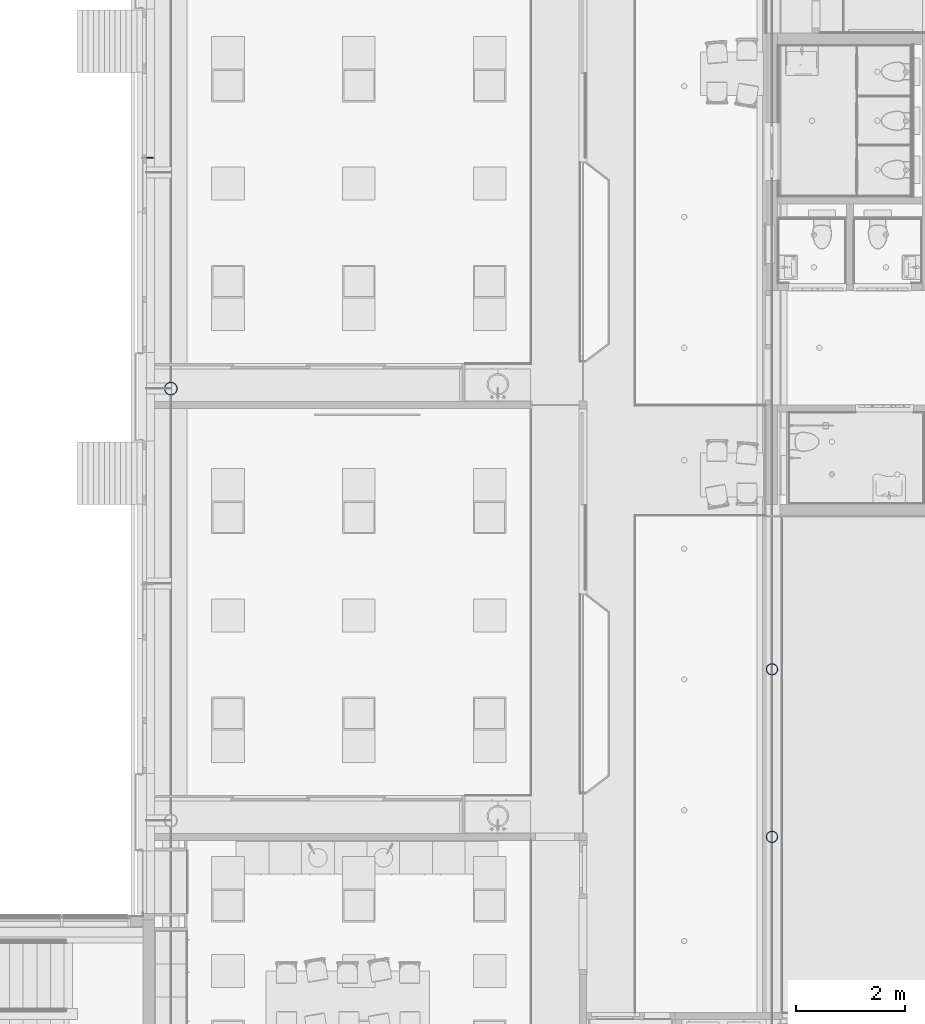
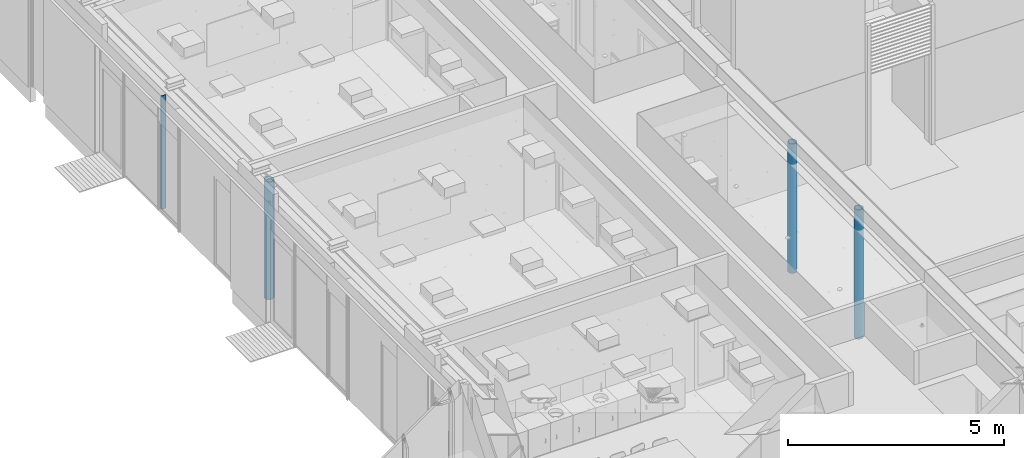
# One storey, part 15 of 347: 4 columns.
"""IFC2X3 building model written with IfcOpenShell, lengths in millimetres."""

import ifcopenshell
import ifcopenshell.guid

model = None  # the IFC model being written
_history = None  # IfcOwnerHistory: only IFC2X3 demands one
_inside = {}  # id of a spatial element -> (the spatial element, [elements in it])
_under = {}  # id of a project, library or spatial element -> (it, [spatial elements below it])
_declared = {}  # id of a project -> (the project, [libraries it declares])
_typed = {}  # id of a type object -> (the type object, [elements of that type])
_made_of = {}  # id of a material, layer set ... -> (it, [elements and type objects made of it])


def new_model(schema):
    """Start an empty IFC model of exactly this schema.

    Asked for "IFC4X3", IfcOpenShell would pick the latest addendum, in which some entities
    have other attributes; the version numbers below select the first issue.
    IFC2X3 requires an IfcOwnerHistory on every rooted entity: one is made here for all.
    """
    global model, _history
    if schema == "IFC4X3":
        model = ifcopenshell.file(schema_version=(4, 3, 0, 0))
    else:
        model = ifcopenshell.file(schema=schema)
    _inside.clear()
    _under.clear()
    _declared.clear()
    _typed.clear()
    _made_of.clear()
    _history = None
    if model.schema == "IFC2X3":
        org = make("IfcOrganization", Name="unknown")
        user = make(
            "IfcPersonAndOrganization",
            ThePerson=make("IfcPerson", FamilyName="unknown"),
            TheOrganization=org,
        )
        app = make(
            "IfcApplication",
            ApplicationDeveloper=org,
            Version="unknown",
            ApplicationFullName="unknown",
            ApplicationIdentifier="unknown",
        )
        _history = make(
            "IfcOwnerHistory",
            OwningUser=user,
            OwningApplication=app,
            ChangeAction="ADDED",
            CreationDate=0,
        )
    return model


def make(cls, **values):
    """One entity of the class cls with the attributes given. An attribute that is None is left unset."""
    return model.create_entity(
        cls, **{name: value for name, value in values.items() if value is not None}
    )


def entity(cls, *values):
    """Any entity or typed value of the class cls, its attributes in the order of the schema. None: left unset."""
    e = model.create_entity(cls)
    for i, value in enumerate(values):
        if value is not None:
            e[i] = value
    return e


def rooted(cls, **values):
    """An entity with a GlobalId (a new one), such as an element, a storey or a relation."""
    return make(cls, GlobalId=ifcopenshell.guid.new(), OwnerHistory=_history, **values)


def si_unit(unit_type, name, prefix=None):
    """IfcSIUnit, for example si_unit("LENGTHUNIT", "METRE", prefix="MILLI")."""
    return make("IfcSIUnit", UnitType=unit_type, Prefix=prefix, Name=name)


def converted_unit(unit_type, name, factor, base, dimensions=None, offset=None):
    """IfcConversionBasedUnit, such as the inch: factor (a typed value) times the base unit."""
    return make(
        "IfcConversionBasedUnit"
        if offset is None
        else "IfcConversionBasedUnitWithOffset",
        ConversionOffset=offset,
        Dimensions=None
        if dimensions is None
        else entity("IfcDimensionalExponents", *dimensions),
        UnitType=unit_type,
        Name=name,
        ConversionFactor=make(
            "IfcMeasureWithUnit", ValueComponent=factor, UnitComponent=base
        ),
    )


def derived_unit(unit_type, elements):
    """IfcDerivedUnit: a product of units, each with its exponent."""
    return make(
        "IfcDerivedUnit",
        Elements=[
            make("IfcDerivedUnitElement", Unit=unit, Exponent=power)
            for unit, power in elements
        ],
        UnitType=unit_type,
    )


def money_unit(currency):
    """IfcMonetaryUnit."""
    return make("IfcMonetaryUnit", Currency=currency)


def assignment(units):
    """IfcUnitAssignment: the units of a project."""
    return None if units is None else make("IfcUnitAssignment", Units=units)


def point(xyz):
    """IfcCartesianPoint."""
    return None if xyz is None else make("IfcCartesianPoint", Coordinates=xyz)


def direction(xyz):
    """IfcDirection."""
    return None if xyz is None else make("IfcDirection", DirectionRatios=xyz)


def frame(location, z_axis=None, x_axis=None):
    """IfcAxis2Placement3D, a coordinate frame: its origin and axes. An axis left out is left unset."""
    return make(
        "IfcAxis2Placement3D",
        Location=point(location),
        Axis=direction(z_axis),
        RefDirection=direction(x_axis),
    )


def origin_with_axes():
    """The frame at (0, 0, 0) with the z axis (0, 0, 1) and the x axis (1, 0, 0) written out."""
    return frame((0.0, 0.0, 0.0), z_axis=(0.0, 0.0, 1.0), x_axis=(1.0, 0.0, 0.0))


def place(relative_to, where):
    """IfcLocalPlacement: puts the frame where relative to a parent placement (None: the world)."""
    return make(
        "IfcLocalPlacement", PlacementRelTo=relative_to, RelativePlacement=where
    )


def context(
    kind, dimensions, precision=None, world=None, true_north=None, identifier=None
):
    """IfcGeometricRepresentationContext, for example the 3D "Model" context."""
    return make(
        "IfcGeometricRepresentationContext",
        ContextIdentifier=identifier,
        ContextType=kind,
        CoordinateSpaceDimension=dimensions,
        Precision=precision,
        WorldCoordinateSystem=world,
        TrueNorth=true_north,
    )


def subcontext(parent, identifier, kind, view, scale=None):
    """IfcGeometricRepresentationSubContext, for example "Body" below "Model"."""
    return make(
        "IfcGeometricRepresentationSubContext",
        ContextIdentifier=identifier,
        ContextType=kind,
        ParentContext=parent,
        TargetScale=scale,
        TargetView=view,
    )


def project(units=None, contexts=None):
    """IfcProject with its units and contexts."""
    return rooted(
        "IfcProject",
        Name="project",
        RepresentationContexts=contexts,
        UnitsInContext=assignment(units),
    )


def spatial(cls, under=None, at=None, **own):
    """A site, building, storey or space (cls), placed at a placement, below another one or the project."""
    s = rooted(cls, ObjectPlacement=at, **own)
    if under is not None:
        _under.setdefault(under.id(), (under, []))[1].append(s)
    return s


def faces_of(points, faces, orient=None, outer=None):
    """IfcFace entities. A face is a list of loops; a loop is a list of indices into points, from 0.

    orient and outer hold one flag for each loop. By default every Orientation is true, the
    first loop of a face is its IfcFaceOuterBound and the others are IfcFaceBound.
    """
    made = []
    for i, loops in enumerate(faces):
        bounds = []
        for j, loop in enumerate(loops):
            is_outer = j == 0 if outer is None else outer[i][j]
            bounds.append(
                make(
                    "IfcFaceOuterBound" if is_outer else "IfcFaceBound",
                    Bound=make("IfcPolyLoop", Polygon=[points[k] for k in loop]),
                    Orientation=True if orient is None else orient[i][j],
                )
            )
        made.append(make("IfcFace", Bounds=bounds))
    return made


def faceted_brep(points, faces, orient=None, outer=None, voids=None):
    """IfcFacetedBrep: a solid bounded by flat faces; with voids (closed shells), ...WithVoids."""
    shared = [point(p) for p in points]
    hull = make("IfcClosedShell", CfsFaces=faces_of(shared, faces, orient, outer))
    if voids is None:
        return make("IfcFacetedBrep", Outer=hull)
    return make(
        "IfcFacetedBrepWithVoids",
        Outer=hull,
        Voids=[
            make(cls, CfsFaces=faces_of(shared, fs, o, b)) for cls, fs, o, b in voids
        ],
    )


def shape(context_of_items, identifier, shape_type, items):
    """IfcShapeRepresentation: the items that make up one representation, for example the "Body"."""
    return make(
        "IfcShapeRepresentation",
        ContextOfItems=context_of_items,
        RepresentationIdentifier=identifier,
        RepresentationType=shape_type,
        Items=items,
    )


def material(Name=None, Category=None):
    """IfcMaterial."""
    return make("IfcMaterial", Name=Name, Category=Category)


def made_of(thing, what):
    """Note that an element or type object is made of a material, layer set ...; save() writes the relation."""
    if what is not None:
        _made_of.setdefault(what.id(), (what, []))[1].append(thing)
    return thing


def type_object(cls, material=None, **own):
    """A type object (cls), such as IfcWallType, which elements share."""
    return made_of(rooted(cls, **own), material)


def element(
    cls,
    number,
    at=None,
    inside=None,
    cuts=None,
    type_object=None,
    material=None,
    context=None,
    identifier="Body",
    shape_type=None,
    held_by="IfcProductDefinitionShape",
    body=None,
    shapes=None,
    **own,
):
    """One element of the class cls, such as IfcWall. Its Tag is "e" and its number.

    at: its placement. inside: the storey or other place that contains it. cuts: it is an
    opening in that element (IfcRelVoidsElement). A single representation is given by context,
    identifier, shape_type and body (its items); several are given by shapes. held_by: the class
    of the entity that holds the representations. save() writes the other relations.
    """
    e = rooted(cls, Tag="e%d" % number, ObjectPlacement=at, **own)
    if body is not None:
        shapes = [shape(context, identifier, shape_type, body)]
    if shapes is not None:
        e.Representation = make(held_by, Representations=shapes)
    if inside is not None:
        _inside.setdefault(inside.id(), (inside, []))[1].append(e)
    if cuts is not None:
        rooted(
            "IfcRelVoidsElement", RelatingBuildingElement=cuts, RelatedOpeningElement=e
        )
    if type_object is not None:
        _typed.setdefault(type_object.id(), (type_object, []))[1].append(e)
    return made_of(e, material)


def aggregate(whole, parts):
    """IfcRelAggregates: a whole, such as a stair, and the parts it consists of."""
    return rooted("IfcRelAggregates", RelatingObject=whole, RelatedObjects=parts)


def save(model, path):
    """Write the relations noted so far, then the file.

    IfcRelAggregates (storeys below a building ...), IfcRelContainedInSpatialStructure (elements
    in a storey), IfcRelDefinesByType, IfcRelAssociatesMaterial and IfcRelDeclares: one each for
    every whole, place, type object, material and project.
    """
    for whole, parts in _under.values():
        aggregate(whole, parts)
    for where, things in _inside.values():
        rooted(
            "IfcRelContainedInSpatialStructure",
            RelatedElements=things,
            RelatingStructure=where,
        )
    for kind, things in _typed.values():
        rooted("IfcRelDefinesByType", RelatedObjects=things, RelatingType=kind)
    for what, things in _made_of.values():
        rooted("IfcRelAssociatesMaterial", RelatedObjects=things, RelatingMaterial=what)
    for by, libraries in _declared.values():
        rooted("IfcRelDeclares", RelatingContext=by, RelatedDefinitions=libraries)
    model.write(path)


model = new_model("IFC2X3")

# Units and contexts
model_context = context("Model", 3, precision=0.01, world=origin_with_axes(), true_north=direction((0.0, 1.0)))
plan_context = context("Plan", 3, precision=0.01, world=origin_with_axes(), true_north=direction((0.0, 1.0)))
body_context = subcontext(model_context, "Body", "Model", "MODEL_VIEW")
ifc_project = project(units=[si_unit("LENGTHUNIT", "METRE", prefix="MILLI"), si_unit("AREAUNIT", "SQUARE_METRE"), si_unit("VOLUMEUNIT", "CUBIC_METRE"), converted_unit("PLANEANGLEUNIT", "DEGREE", entity("IfcPlaneAngleMeasure", 0.0174532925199), si_unit("PLANEANGLEUNIT", "RADIAN"), dimensions=[0, 0, 0, 0, 0, 0, 0]), money_unit("EUR"), converted_unit("TIMEUNIT", "Year", entity("IfcTimeMeasure", 31556926.0), si_unit("TIMEUNIT", "SECOND"), dimensions=[0, 0, 1, 0, 0, 0, 0]), si_unit("MASSUNIT", "GRAM", prefix="KILO"), si_unit("THERMODYNAMICTEMPERATUREUNIT", "DEGREE_CELSIUS"), si_unit("LUMINOUSINTENSITYUNIT", "LUMEN"), si_unit("ENERGYUNIT", "JOULE", prefix="MEGA"), derived_unit("THERMALCONDUCTANCEUNIT", [(si_unit("POWERUNIT", "WATT"), 1), (si_unit("LENGTHUNIT", "METRE"), -1), (si_unit("THERMODYNAMICTEMPERATUREUNIT", "KELVIN"), -1)]), derived_unit("SPECIFICHEATCAPACITYUNIT", [(si_unit("ENERGYUNIT", "JOULE"), 1), (si_unit("MASSUNIT", "GRAM", prefix="KILO"), -1), (si_unit("THERMODYNAMICTEMPERATUREUNIT", "KELVIN"), -1)]), derived_unit("MASSDENSITYUNIT", [(si_unit("MASSUNIT", "GRAM", prefix="KILO"), 1), (si_unit("VOLUMEUNIT", "CUBIC_METRE"), -1)])], contexts=[model_context, plan_context])

# Site, building, storey
site_placement = place(None, origin_with_axes())
site = spatial("IfcSite", under=ifc_project, at=site_placement, Name="Site", CompositionType="ELEMENT")
building_placement = place(site_placement, origin_with_axes())
building = spatial("IfcBuilding", under=site, at=building_placement, Name="Naam gebouw", CompositionType="ELEMENT")
storey_placement = place(building_placement, origin_with_axes())
storey = spatial("IfcBuildingStorey", under=building, at=storey_placement, Name="begane grond", CompositionType="ELEMENT", Elevation=0.0)

# Columns
ifc_material = material(Name="Metaal - Staal C wit")
column_type_1 = type_object("IfcColumnType", Name="Lucht D245", PredefinedType="COLUMN")
column_1_placement = place(storey_placement, frame((24575.0, 28275.0, -70.0), z_axis=(0.0, 0.0, 1.0), x_axis=(1.0, 0.0, 0.0)))
element("IfcColumn", 1, at=column_1_placement, inside=storey, type_object=column_type_1, material=ifc_material, Name="28_kolom ø 273mm", ObjectType="COLUMN", context=body_context, shape_type="Brep", body=[
    faceted_brep([(-122.25, 0.0, 0.0), (-119.184937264, -27.2031841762, 0.0), (-119.184937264, -27.2031841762, 3330.0), (-122.25, 0.0, 3330.0), (-119.184937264, 27.2031841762, 0.0), (-110.143444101, 53.0422871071, 0.0), (-95.5788987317, 76.2216282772, 0.0), (-76.2216282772, 95.5788987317, 0.0), (-53.0422871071, 110.143444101, 0.0), (-27.2031841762, 119.184937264, 0.0), (0.0, 122.25, 0.0), (27.2031841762, 119.184937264, 0.0), (53.0422871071, 110.143444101, 0.0), (76.2216282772, 95.5788987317, 0.0), (95.5788987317, 76.2216282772, 0.0), (110.143444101, 53.0422871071, 0.0), (119.184937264, 27.2031841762, 0.0), (122.25, 0.0, 0.0), (119.184937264, -27.2031841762, 0.0), (110.143444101, -53.0422871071, 0.0), (95.5788987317, -76.2216282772, 0.0), (76.2216282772, -95.5788987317, 0.0), (53.0422871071, -110.143444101, 0.0), (27.2031841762, -119.184937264, 0.0), (0.0, -122.25, 0.0), (-27.2031841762, -119.184937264, 0.0), (-53.0422871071, -110.143444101, 0.0), (-76.2216282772, -95.5788987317, 0.0), (-95.5788987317, -76.2216282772, 0.0), (-110.143444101, -53.0422871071, 0.0), (-106.25, 0.0, 0.0), (-102.629619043, -27.4995235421, 0.0), (-92.0151991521, -53.125, 0.0), (-75.1300955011, -75.1300955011, 0.0), (-53.125, -92.0151991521, 0.0), (-27.4995235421, -102.629619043, 0.0), (0.0, -106.25, 0.0), (27.4995235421, -102.629619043, 0.0), (53.125, -92.0151991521, 0.0), (75.1300955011, -75.1300955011, 0.0), (92.0151991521, -53.125, 0.0), (102.629619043, -27.4995235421, 0.0), (106.25, 0.0, 0.0), (102.629619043, 27.4995235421, 0.0), (92.0151991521, 53.125, 0.0), (75.1300955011, 75.1300955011, 0.0), (53.125, 92.0151991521, 0.0), (27.4995235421, 102.629619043, 0.0), (0.0, 106.25, 0.0), (-27.4995235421, 102.629619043, 0.0), (-53.125, 92.0151991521, 0.0), (-75.1300955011, 75.1300955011, 0.0), (-92.0151991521, 53.125, 0.0), (-102.629619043, 27.4995235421, 0.0), (-110.143444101, -53.0422871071, 3330.0), (-95.5788987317, -76.2216282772, 3330.0), (-76.2216282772, -95.5788987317, 3330.0), (-53.0422871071, -110.143444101, 3330.0), (-27.2031841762, -119.184937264, 3330.0), (0.0, -122.25, 3330.0), (27.2031841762, -119.184937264, 3330.0), (53.0422871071, -110.143444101, 3330.0), (76.2216282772, -95.5788987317, 3330.0), (95.5788987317, -76.2216282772, 3330.0), (110.143444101, -53.0422871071, 3330.0), (119.184937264, -27.2031841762, 3330.0), (122.25, 0.0, 3330.0), (119.184937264, 27.2031841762, 3330.0), (110.143444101, 53.0422871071, 3330.0), (95.5788987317, 76.2216282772, 3330.0), (76.2216282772, 95.5788987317, 3330.0), (53.0422871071, 110.143444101, 3330.0), (27.2031841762, 119.184937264, 3330.0), (0.0, 122.25, 3330.0), (-27.2031841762, 119.184937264, 3330.0), (-53.0422871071, 110.143444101, 3330.0), (-76.2216282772, 95.5788987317, 3330.0), (-95.5788987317, 76.2216282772, 3330.0), (-110.143444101, 53.0422871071, 3330.0), (-119.184937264, 27.2031841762, 3330.0), (-106.25, 0.0, 3330.0), (-102.629619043, 27.4995235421, 3330.0), (-92.0151991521, 53.125, 3330.0), (-75.1300955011, 75.1300955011, 3330.0), (-53.125, 92.0151991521, 3330.0), (-27.4995235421, 102.629619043, 3330.0), (0.0, 106.25, 3330.0), (27.4995235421, 102.629619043, 3330.0), (53.125, 92.0151991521, 3330.0), (75.1300955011, 75.1300955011, 3330.0), (92.0151991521, 53.125, 3330.0), (102.629619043, 27.4995235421, 3330.0), (106.25, 0.0, 3330.0), (102.629619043, -27.4995235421, 3330.0), (92.0151991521, -53.125, 3330.0), (75.1300955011, -75.1300955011, 3330.0), (53.125, -92.0151991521, 3330.0), (27.4995235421, -102.629619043, 3330.0), (0.0, -106.25, 3330.0), (-27.4995235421, -102.629619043, 3330.0), (-53.125, -92.0151991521, 3330.0), (-75.1300955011, -75.1300955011, 3330.0), (-92.0151991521, -53.125, 3330.0), (-102.629619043, -27.4995235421, 3330.0)], [[[0, 1, 2, 3]], [[0, 4, 5, 6, 7, 8, 9, 10, 11, 12, 13, 14, 15, 16, 17, 18, 19, 20, 21, 22, 23, 24, 25, 26, 27, 28, 29, 1], [30, 31, 32, 33, 34, 35, 36, 37, 38, 39, 40, 41, 42, 43, 44, 45, 46, 47, 48, 49, 50, 51, 52, 53]], [[1, 29, 54, 2]], [[3, 2, 54, 55, 56, 57, 58, 59, 60, 61, 62, 63, 64, 65, 66, 67, 68, 69, 70, 71, 72, 73, 74, 75, 76, 77, 78, 79], [80, 81, 82, 83, 84, 85, 86, 87, 88, 89, 90, 91, 92, 93, 94, 95, 96, 97, 98, 99, 100, 101, 102, 103]], [[4, 0, 3, 79]], [[5, 4, 79, 78]], [[6, 5, 78, 77]], [[7, 6, 77, 76]], [[8, 7, 76, 75]], [[9, 8, 75, 74]], [[10, 9, 74, 73]], [[11, 10, 73, 72]], [[12, 11, 72, 71]], [[13, 12, 71, 70]], [[14, 13, 70, 69]], [[15, 14, 69, 68]], [[16, 15, 68, 67]], [[17, 16, 67, 66]], [[18, 17, 66, 65]], [[19, 18, 65, 64]], [[20, 19, 64, 63]], [[21, 20, 63, 62]], [[22, 21, 62, 61]], [[23, 22, 61, 60]], [[24, 23, 60, 59]], [[25, 24, 59, 58]], [[26, 25, 58, 57]], [[27, 26, 57, 56]], [[28, 27, 56, 55]], [[29, 28, 55, 54]], [[31, 30, 80, 103]], [[32, 31, 103, 102]], [[33, 32, 102, 101]], [[34, 33, 101, 100]], [[35, 34, 100, 99]], [[36, 35, 99, 98]], [[37, 36, 98, 97]], [[38, 37, 97, 96]], [[39, 38, 96, 95]], [[40, 39, 95, 94]], [[41, 40, 94, 93]], [[42, 41, 93, 92]], [[43, 42, 92, 91]], [[44, 43, 91, 90]], [[45, 44, 90, 89]], [[46, 45, 89, 88]], [[47, 46, 88, 87]], [[48, 47, 87, 86]], [[49, 48, 86, 85]], [[50, 49, 85, 84]], [[51, 50, 84, 83]], [[52, 51, 83, 82]], [[53, 52, 82, 81]], [[30, 53, 81, 80]]]),
])
column_type_2 = type_object("IfcColumnType", Name="Metaal - Staal C wit 20 x 130", PredefinedType="COLUMN")
column_2_placement = place(storey_placement, frame((24190.0000757, 32512.5, -10.0), z_axis=(0.0, 0.0, 1.0), x_axis=(0.0, -1.0, 0.0)))
element("IfcColumn", 2, at=column_2_placement, inside=storey, type_object=column_type_2, material=ifc_material, Name="28_kolom koker", ObjectType="COLUMN", context=body_context, shape_type="Brep", body=[
    faceted_brep([(-10.0, -65.0, 3210.0), (-10.0, -65.0, 0.0), (10.0, -65.0, 0.0), (10.0, -65.0, 3210.0), (-10.0, 65.0, 3210.0), (-10.0, 65.0, 0.0), (10.0, 65.0, 0.0), (10.0, 65.0, 3210.0)], [[[0, 1, 2, 3]], [[4, 5, 1, 0]], [[2, 1, 5, 6]], [[3, 2, 6, 7]], [[4, 0, 3, 7]], [[7, 6, 5, 4]]]),
])
column_type_3 = type_object("IfcColumnType", Name="Lucht D219", PredefinedType="COLUMN")
column_3_placement = place(storey_placement, frame((35605.0, 23125.0, -70.0), z_axis=(0.0, 0.0, 1.0), x_axis=(1.0, 0.0, 0.0)))
element("IfcColumn", 3, at=column_3_placement, inside=storey, type_object=column_type_3, material=ifc_material, Name="28_kolom ø 273mm", ObjectType="COLUMN", context=body_context, shape_type="Brep", body=[
    faceted_brep([(-109.55, 0.0, 0.0), (-105.81717427, -28.353626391, 0.0), (-105.81717427, -28.353626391, 3659.544327), (-109.55, 0.0, 3659.544327), (-105.81717427, 28.353626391, 0.0), (-94.8730829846, 54.775, 0.0), (-77.463547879, 77.463547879, 0.0), (-54.775, 94.8730829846, 0.0), (-28.353626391, 105.81717427, 0.0), (0.0, 109.55, 0.0), (28.353626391, 105.81717427, 0.0), (54.775, 94.8730829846, 0.0), (77.463547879, 77.463547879, 0.0), (94.8730829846, 54.775, 0.0), (105.81717427, 28.353626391, 0.0), (109.55, 0.0, 0.0), (105.81717427, -28.353626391, 0.0), (94.8730829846, -54.775, 0.0), (77.463547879, -77.463547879, 0.0), (54.775, -94.8730829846, 0.0), (28.353626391, -105.81717427, 0.0), (0.0, -109.55, 0.0), (-28.353626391, -105.81717427, 0.0), (-54.775, -94.8730829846, 0.0), (-77.463547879, -77.463547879, 0.0), (-94.8730829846, -54.775, 0.0), (-93.55, 0.0, 0.0), (-89.7605676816, -26.3560806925, 0.0), (-78.6992679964, -50.576948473, 0.0), (-61.2622216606, -70.7003726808, 0.0), (-38.8620744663, -85.0960731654, 0.0), (-13.3135531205, -92.597795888, 0.0), (13.3135531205, -92.597795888, 0.0), (38.8620744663, -85.0960731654, 0.0), (61.2622216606, -70.7003726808, 0.0), (78.6992679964, -50.576948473, 0.0), (89.7605676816, -26.3560806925, 0.0), (93.55, 0.0, 0.0), (89.7605676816, 26.3560806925, 0.0), (78.6992679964, 50.576948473, 0.0), (61.2622216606, 70.7003726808, 0.0), (38.8620744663, 85.0960731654, 0.0), (13.3135531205, 92.597795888, 0.0), (-13.3135531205, 92.597795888, 0.0), (-38.8620744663, 85.0960731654, 0.0), (-61.2622216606, 70.7003726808, 0.0), (-78.6992679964, 50.576948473, 0.0), (-89.7605676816, 26.3560806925, 0.0), (-94.8730829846, -54.775, 3659.544327), (-77.463547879, -77.463547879, 3659.544327), (-54.775, -94.8730829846, 3659.544327), (-28.353626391, -105.81717427, 3659.544327), (0.0, -109.55, 3659.544327), (28.353626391, -105.81717427, 3659.544327), (54.775, -94.8730829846, 3659.544327), (77.463547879, -77.463547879, 3659.544327), (94.8730829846, -54.775, 3659.544327), (105.81717427, -28.353626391, 3659.544327), (109.55, 0.0, 3659.544327), (105.81717427, 28.353626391, 3659.544327), (94.8730829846, 54.775, 3659.544327), (77.463547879, 77.463547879, 3659.544327), (54.775, 94.8730829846, 3659.544327), (28.353626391, 105.81717427, 3659.544327), (0.0, 109.55, 3659.544327), (-28.353626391, 105.81717427, 3659.544327), (-54.775, 94.8730829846, 3659.544327), (-77.463547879, 77.463547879, 3659.544327), (-94.8730829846, 54.775, 3659.544327), (-105.81717427, 28.353626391, 3659.544327), (-93.55, 0.0, 3659.544327), (-89.7605676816, 26.3560806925, 3659.544327), (-78.6992679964, 50.576948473, 3659.544327), (-61.2622216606, 70.7003726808, 3659.544327), (-38.8620744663, 85.0960731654, 3659.544327), (-13.3135531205, 92.597795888, 3659.544327), (13.3135531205, 92.597795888, 3659.544327), (38.8620744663, 85.0960731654, 3659.544327), (61.2622216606, 70.7003726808, 3659.544327), (78.6992679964, 50.576948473, 3659.544327), (89.7605676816, 26.3560806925, 3659.544327), (93.55, 0.0, 3659.544327), (89.7605676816, -26.3560806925, 3659.544327), (78.6992679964, -50.576948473, 3659.544327), (61.2622216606, -70.7003726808, 3659.544327), (38.8620744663, -85.0960731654, 3659.544327), (13.3135531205, -92.597795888, 3659.544327), (-13.3135531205, -92.597795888, 3659.544327), (-38.8620744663, -85.0960731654, 3659.544327), (-61.2622216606, -70.7003726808, 3659.544327), (-78.6992679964, -50.576948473, 3659.544327), (-89.7605676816, -26.3560806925, 3659.544327)], [[[0, 1, 2, 3]], [[0, 4, 5, 6, 7, 8, 9, 10, 11, 12, 13, 14, 15, 16, 17, 18, 19, 20, 21, 22, 23, 24, 25, 1], [26, 27, 28, 29, 30, 31, 32, 33, 34, 35, 36, 37, 38, 39, 40, 41, 42, 43, 44, 45, 46, 47]], [[1, 25, 48, 2]], [[3, 2, 48, 49, 50, 51, 52, 53, 54, 55, 56, 57, 58, 59, 60, 61, 62, 63, 64, 65, 66, 67, 68, 69], [70, 71, 72, 73, 74, 75, 76, 77, 78, 79, 80, 81, 82, 83, 84, 85, 86, 87, 88, 89, 90, 91]], [[4, 0, 3, 69]], [[5, 4, 69, 68]], [[6, 5, 68, 67]], [[7, 6, 67, 66]], [[8, 7, 66, 65]], [[9, 8, 65, 64]], [[10, 9, 64, 63]], [[11, 10, 63, 62]], [[12, 11, 62, 61]], [[13, 12, 61, 60]], [[14, 13, 60, 59]], [[15, 14, 59, 58]], [[16, 15, 58, 57]], [[17, 16, 57, 56]], [[18, 17, 56, 55]], [[19, 18, 55, 54]], [[20, 19, 54, 53]], [[21, 20, 53, 52]], [[22, 21, 52, 51]], [[23, 22, 51, 50]], [[24, 23, 50, 49]], [[25, 24, 49, 48]], [[27, 26, 70, 91]], [[28, 27, 91, 90]], [[29, 28, 90, 89]], [[30, 29, 89, 88]], [[31, 30, 88, 87]], [[32, 31, 87, 86]], [[33, 32, 86, 85]], [[34, 33, 85, 84]], [[35, 34, 84, 83]], [[36, 35, 83, 82]], [[37, 36, 82, 81]], [[38, 37, 81, 80]], [[39, 38, 80, 79]], [[40, 39, 79, 78]], [[41, 40, 78, 77]], [[42, 41, 77, 76]], [[43, 42, 76, 75]], [[44, 43, 75, 74]], [[45, 44, 74, 73]], [[46, 45, 73, 72]], [[47, 46, 72, 71]], [[26, 47, 71, 70]]]),
])
column_4_placement = place(storey_placement, frame((35605.0, 20050.0, -70.0), z_axis=(0.0, 0.0, 1.0), x_axis=(1.0, 0.0, 0.0)))
element("IfcColumn", 4, at=column_4_placement, inside=storey, type_object=column_type_3, material=ifc_material, Name="28_kolom ø 273mm", ObjectType="COLUMN", context=body_context, shape_type="Brep", body=[
    faceted_brep([(-109.55, 0.0, 0.0), (-105.81717427, -28.353626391, 0.0), (-105.81717427, -28.353626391, 3659.544327), (-109.55, 0.0, 3659.544327), (-105.81717427, 28.353626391, 0.0), (-94.8730829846, 54.775, 0.0), (-77.463547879, 77.463547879, 0.0), (-54.775, 94.8730829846, 0.0), (-28.353626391, 105.81717427, 0.0), (0.0, 109.55, 0.0), (28.353626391, 105.81717427, 0.0), (54.775, 94.8730829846, 0.0), (77.463547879, 77.463547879, 0.0), (94.8730829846, 54.775, 0.0), (105.81717427, 28.353626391, 0.0), (109.55, 0.0, 0.0), (105.81717427, -28.353626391, 0.0), (94.8730829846, -54.775, 0.0), (77.463547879, -77.463547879, 0.0), (54.775, -94.8730829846, 0.0), (28.353626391, -105.81717427, 0.0), (0.0, -109.55, 0.0), (-28.353626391, -105.81717427, 0.0), (-54.775, -94.8730829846, 0.0), (-77.463547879, -77.463547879, 0.0), (-94.8730829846, -54.775, 0.0), (-93.55, 0.0, 0.0), (-89.7605676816, -26.3560806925, 0.0), (-78.6992679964, -50.576948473, 0.0), (-61.2622216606, -70.7003726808, 0.0), (-38.8620744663, -85.0960731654, 0.0), (-13.3135531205, -92.597795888, 0.0), (13.3135531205, -92.597795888, 0.0), (38.8620744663, -85.0960731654, 0.0), (61.2622216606, -70.7003726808, 0.0), (78.6992679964, -50.576948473, 0.0), (89.7605676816, -26.3560806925, 0.0), (93.55, 0.0, 0.0), (89.7605676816, 26.3560806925, 0.0), (78.6992679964, 50.576948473, 0.0), (61.2622216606, 70.7003726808, 0.0), (38.8620744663, 85.0960731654, 0.0), (13.3135531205, 92.597795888, 0.0), (-13.3135531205, 92.597795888, 0.0), (-38.8620744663, 85.0960731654, 0.0), (-61.2622216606, 70.7003726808, 0.0), (-78.6992679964, 50.576948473, 0.0), (-89.7605676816, 26.3560806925, 0.0), (-94.8730829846, -54.775, 3659.544327), (-77.463547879, -77.463547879, 3659.544327), (-54.775, -94.8730829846, 3659.544327), (-28.353626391, -105.81717427, 3659.544327), (0.0, -109.55, 3659.544327), (28.353626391, -105.81717427, 3659.544327), (54.775, -94.8730829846, 3659.544327), (77.463547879, -77.463547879, 3659.544327), (94.8730829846, -54.775, 3659.544327), (105.81717427, -28.353626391, 3659.544327), (109.55, 0.0, 3659.544327), (105.81717427, 28.353626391, 3659.544327), (94.8730829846, 54.775, 3659.544327), (77.463547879, 77.463547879, 3659.544327), (54.775, 94.8730829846, 3659.544327), (28.353626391, 105.81717427, 3659.544327), (0.0, 109.55, 3659.544327), (-28.353626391, 105.81717427, 3659.544327), (-54.775, 94.8730829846, 3659.544327), (-77.463547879, 77.463547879, 3659.544327), (-94.8730829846, 54.775, 3659.544327), (-105.81717427, 28.353626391, 3659.544327), (-93.55, 0.0, 3659.544327), (-89.7605676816, 26.3560806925, 3659.544327), (-78.6992679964, 50.576948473, 3659.544327), (-61.2622216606, 70.7003726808, 3659.544327), (-38.8620744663, 85.0960731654, 3659.544327), (-13.3135531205, 92.597795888, 3659.544327), (13.3135531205, 92.597795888, 3659.544327), (38.8620744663, 85.0960731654, 3659.544327), (61.2622216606, 70.7003726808, 3659.544327), (78.6992679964, 50.576948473, 3659.544327), (89.7605676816, 26.3560806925, 3659.544327), (93.55, 0.0, 3659.544327), (89.7605676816, -26.3560806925, 3659.544327), (78.6992679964, -50.576948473, 3659.544327), (61.2622216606, -70.7003726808, 3659.544327), (38.8620744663, -85.0960731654, 3659.544327), (13.3135531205, -92.597795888, 3659.544327), (-13.3135531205, -92.597795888, 3659.544327), (-38.8620744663, -85.0960731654, 3659.544327), (-61.2622216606, -70.7003726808, 3659.544327), (-78.6992679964, -50.576948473, 3659.544327), (-89.7605676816, -26.3560806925, 3659.544327)], [[[0, 1, 2, 3]], [[0, 4, 5, 6, 7, 8, 9, 10, 11, 12, 13, 14, 15, 16, 17, 18, 19, 20, 21, 22, 23, 24, 25, 1], [26, 27, 28, 29, 30, 31, 32, 33, 34, 35, 36, 37, 38, 39, 40, 41, 42, 43, 44, 45, 46, 47]], [[1, 25, 48, 2]], [[3, 2, 48, 49, 50, 51, 52, 53, 54, 55, 56, 57, 58, 59, 60, 61, 62, 63, 64, 65, 66, 67, 68, 69], [70, 71, 72, 73, 74, 75, 76, 77, 78, 79, 80, 81, 82, 83, 84, 85, 86, 87, 88, 89, 90, 91]], [[4, 0, 3, 69]], [[5, 4, 69, 68]], [[6, 5, 68, 67]], [[7, 6, 67, 66]], [[8, 7, 66, 65]], [[9, 8, 65, 64]], [[10, 9, 64, 63]], [[11, 10, 63, 62]], [[12, 11, 62, 61]], [[13, 12, 61, 60]], [[14, 13, 60, 59]], [[15, 14, 59, 58]], [[16, 15, 58, 57]], [[17, 16, 57, 56]], [[18, 17, 56, 55]], [[19, 18, 55, 54]], [[20, 19, 54, 53]], [[21, 20, 53, 52]], [[22, 21, 52, 51]], [[23, 22, 51, 50]], [[24, 23, 50, 49]], [[25, 24, 49, 48]], [[27, 26, 70, 91]], [[28, 27, 91, 90]], [[29, 28, 90, 89]], [[30, 29, 89, 88]], [[31, 30, 88, 87]], [[32, 31, 87, 86]], [[33, 32, 86, 85]], [[34, 33, 85, 84]], [[35, 34, 84, 83]], [[36, 35, 83, 82]], [[37, 36, 82, 81]], [[38, 37, 81, 80]], [[39, 38, 80, 79]], [[40, 39, 79, 78]], [[41, 40, 78, 77]], [[42, 41, 77, 76]], [[43, 42, 76, 75]], [[44, 43, 75, 74]], [[45, 44, 74, 73]], [[46, 45, 73, 72]], [[47, 46, 72, 71]], [[26, 47, 71, 70]]]),
])

save(model, "model.ifc")
